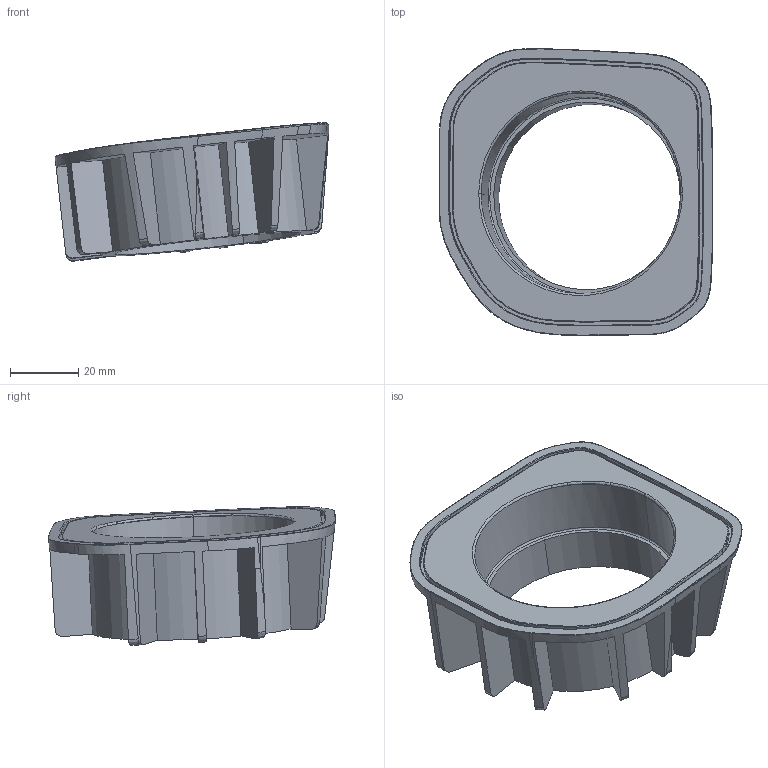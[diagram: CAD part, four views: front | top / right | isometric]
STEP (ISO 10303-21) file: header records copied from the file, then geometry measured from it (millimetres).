
FILE_DESCRIPTION(('CATIA V5 STEP Exchange'),'2;1');
FILE_NAME('F:\够快云库\系统集成开发部\1.部门成员\王洪尧\BJ40PLUS\部件设计\圆形控制面板\自动挡控制面板托架\20190807自动挡控制面板支架.stp','2019-08-07T01:13:34+00:00',('none'),('none'),'CATIA Version 5 Release 21 GA (IN-10)','CATIA V5 STEP AP203','none');
FILE_SCHEMA(('CONFIG_CONTROL_DESIGN'));
Length unit declared in the file: millimetre
Products named in the file (1): Part30
Bounding box: 80.24 x 84.04 x 40.58 mm (x, y, z)
Volume: 32848.4 mm3; surface area: 26297.3 mm2
Topology: 1 solids, 1 shells, 252 faces, 643 edges, 396 vertices
Faces by surface type: bspline 134, extrusion 49, plane 48, cylinder 21
Entity records: 16194 total; most frequent: CARTESIAN_POINT 11537, ORIENTED_EDGE 1286, EDGE_CURVE 643, B_SPLINE_CURVE_WITH_KNOTS 506, VERTEX_POINT 396, DIRECTION 321, EDGE_LOOP 257, ADVANCED_FACE 252
